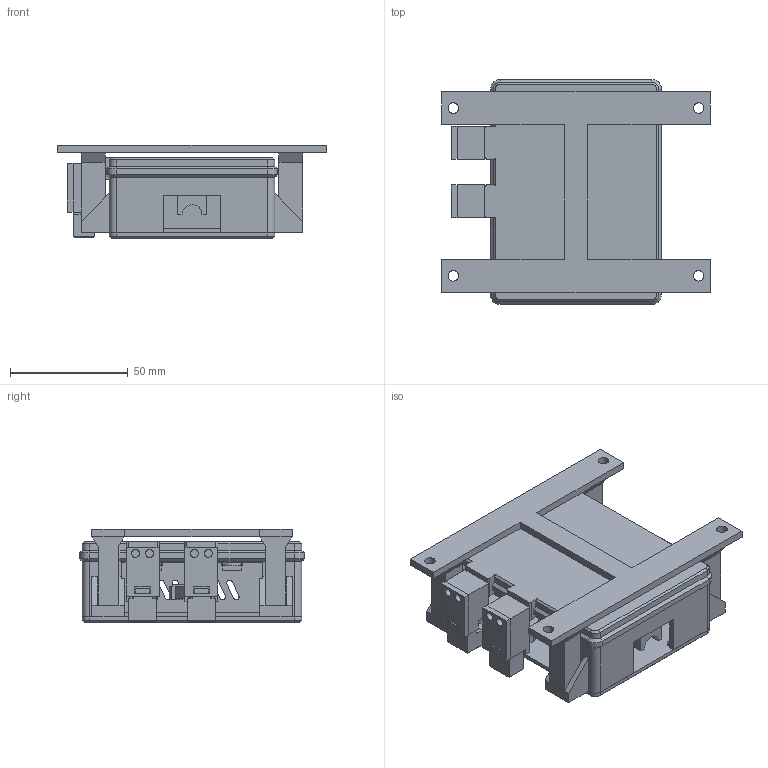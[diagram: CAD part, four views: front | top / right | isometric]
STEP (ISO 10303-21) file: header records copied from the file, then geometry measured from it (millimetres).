
FILE_DESCRIPTION(('Open CASCADE Model'),'2;1');
FILE_NAME('Open CASCADE Shape Model','2026-10-19T19:26:16',('Author'),( 'Open CASCADE'),'Open CASCADE STEP processor 7.9','build123d', 'Unknown');
FILE_SCHEMA(('AUTOMOTIVE_DESIGN { 1 0 10303 214 1 1 1 1 }'));
Length unit declared in the file: millimetre
Products named in the file (16): COMPOUND; lid; body; desk_bracket; pcb_clamp_left_front; pcb_clamp_left_rear; pcb_clamp_right_front; pcb_clamp_right_rear; reset_frame; reset_slider; reset_rear_keeper; reset_moving_magnet_keeper; boot_frame; boot_slider; boot_rear_keeper; boot_moving_magnet_keeper
Assembly tree (15 placements, depth 2):
  COMPOUND
    lid
    body
    desk_bracket
    pcb_clamp_left_front
    pcb_clamp_left_rear
    pcb_clamp_right_front
    pcb_clamp_right_rear
    reset_frame
    reset_slider
    reset_rear_keeper
    reset_moving_magnet_keeper
    boot_frame
    boot_slider
    boot_rear_keeper
    boot_moving_magnet_keeper
Bounding box: 114.3 x 95.7 x 39.6 mm (x, y, z)
Volume: 94386.5 mm3; surface area: 74332.4 mm2
Topology: 15 solids, 15 shells, 662 faces, 1788 edges, 1196 vertices
Faces by surface type: plane 522, cylinder 123, cone 16, bspline 1
Full cylindrical faces by diameter (mm): 3.4 x22, 4 x18, 4.5 x4
Entity records: 56232 total; most frequent: CARTESIAN_POINT 22368, DIRECTION 5577, LINE 4179, VECTOR 4179, ORIENTED_EDGE 3576, PCURVE 3576, DEFINITIONAL_REPRESENTATION 3576, EDGE_CURVE 1788
